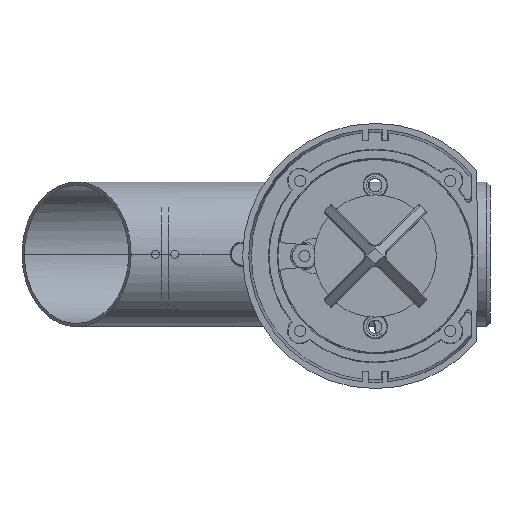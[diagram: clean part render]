
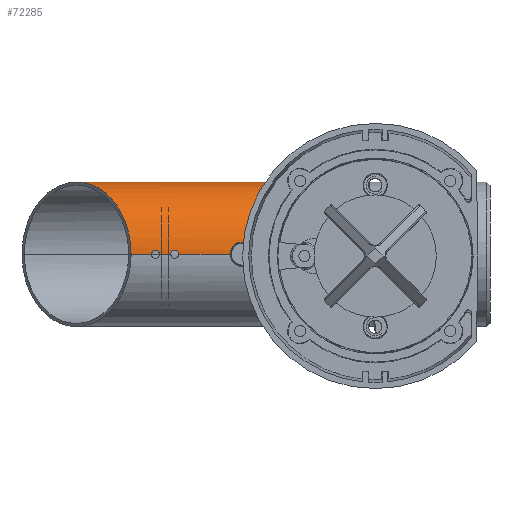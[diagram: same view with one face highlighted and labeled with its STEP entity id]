
A CAD part, front view. The second image highlights one B-rep face of the part: STEP entity #72285.
In plain terms, the highlighted cylindrical face has radius 22.5 mm (diameter 45 mm), a partial arc.
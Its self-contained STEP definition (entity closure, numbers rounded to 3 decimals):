
#71793=CARTESIAN_POINT('',(22.5,0.,67.25));
#71794=CARTESIAN_POINT('',(22.5,-0.129,67.25));
#71795=CARTESIAN_POINT('',(22.498,-0.388,
67.29));
#71796=CARTESIAN_POINT('',(22.488,-0.744,
67.47));
#71797=CARTESIAN_POINT('',(22.477,-1.028,
67.753));
#71798=CARTESIAN_POINT('',(22.468,-1.208,
68.106));
#71799=CARTESIAN_POINT('',(22.464,-1.271,
68.497));
#71800=CARTESIAN_POINT('',(22.468,-1.209,
68.891));
#71801=CARTESIAN_POINT('',(22.477,-1.028,
69.247));
#71802=CARTESIAN_POINT('',(22.488,-0.748,
69.528));
#71803=CARTESIAN_POINT('',(22.498,-0.386,
69.711));
#71804=CARTESIAN_POINT('',(22.5,-0.128,69.75));
#71805=CARTESIAN_POINT('',(22.5,0.,69.75));
#71811=CARTESIAN_POINT('',(22.5,0.,33.91));
#71812=CARTESIAN_POINT('',(22.5,-2.652,33.91));
#71813=CARTESIAN_POINT('',(21.772,-6.946,
33.361));
#71814=CARTESIAN_POINT('',(18.974,-12.386,
31.253));
#71815=CARTESIAN_POINT('',(16.025,-16.025,
29.031));
#71816=CARTESIAN_POINT('',(12.385,-18.975,
26.288));
#71817=CARTESIAN_POINT('',(8.307,-21.071,
23.215));
#71818=CARTESIAN_POINT('',(4.784,-22.065,
20.56));
#71819=CARTESIAN_POINT('',(2.01,-22.441,
18.47));
#71820=CARTESIAN_POINT('',(0.,-22.529,16.955));
#71821=CARTESIAN_POINT('',(-2.01,-22.441,
15.44));
#71822=CARTESIAN_POINT('',(-4.784,-22.065,
13.35));
#71823=CARTESIAN_POINT('',(-8.307,-21.071,
10.695));
#71824=CARTESIAN_POINT('',(-12.385,-18.975,
7.622));
#71825=CARTESIAN_POINT('',(-16.025,-16.025,
4.879));
#71826=CARTESIAN_POINT('',(-18.974,-12.386,
2.657));
#71827=CARTESIAN_POINT('',(-21.772,-6.946,
0.549));
#71828=CARTESIAN_POINT('',(-22.5,-2.652,0.));
#71829=CARTESIAN_POINT('',(-22.5,0.,0.));
#71831=DIRECTION('',(0.,0.,1.));
#71832=VECTOR('',#71831,108.);
#71833=CARTESIAN_POINT('',(-22.5,0.,0.));
#71834=LINE('',#71833,#71832);
#71855=DIRECTION('',(0.,0.,1.));
#71856=VECTOR('',#71855,6.34);
#71857=CARTESIAN_POINT('',(22.5,0.,33.91));
#71858=LINE('',#71857,#71856);
#71859=DIRECTION('',(0.,0.,1.));
#71860=VECTOR('',#71859,3.5);
#71861=CARTESIAN_POINT('',(22.5,0.,42.75));
#71862=LINE('',#71861,#71860);
#71863=DIRECTION('',(0.,0.,1.));
#71864=VECTOR('',#71863,18.5);
#71865=CARTESIAN_POINT('',(22.5,0.,48.75));
#71866=LINE('',#71865,#71864);
#71867=DIRECTION('',(0.,0.,1.));
#71868=VECTOR('',#71867,38.25);
#71869=CARTESIAN_POINT('',(22.5,0.,69.75));
#71870=LINE('',#71869,#71868);
#71890=CARTESIAN_POINT('',(0.,0.,108.));
#71891=DIRECTION('',(0.,0.,-1.));
#71892=DIRECTION('',(1.,0.,0.));
#71893=AXIS2_PLACEMENT_3D('',#71890,#71891,#71892);
#72007=CARTESIAN_POINT('',(22.5,0.,46.25));
#72008=CARTESIAN_POINT('',(22.5,-0.129,46.25));
#72009=CARTESIAN_POINT('',(22.498,-0.388,
46.29));
#72010=CARTESIAN_POINT('',(22.488,-0.744,
46.47));
#72011=CARTESIAN_POINT('',(22.477,-1.028,
46.753));
#72012=CARTESIAN_POINT('',(22.468,-1.208,
47.106));
#72013=CARTESIAN_POINT('',(22.464,-1.271,
47.497));
#72014=CARTESIAN_POINT('',(22.468,-1.209,
47.891));
#72015=CARTESIAN_POINT('',(22.477,-1.028,
48.247));
#72016=CARTESIAN_POINT('',(22.488,-0.748,
48.528));
#72017=CARTESIAN_POINT('',(22.498,-0.386,
48.711));
#72018=CARTESIAN_POINT('',(22.5,-0.128,48.75));
#72019=CARTESIAN_POINT('',(22.5,0.,48.75));
#72136=CARTESIAN_POINT('',(22.5,0.,40.25));
#72137=CARTESIAN_POINT('',(22.5,-0.129,40.25));
#72138=CARTESIAN_POINT('',(22.498,-0.388,
40.29));
#72139=CARTESIAN_POINT('',(22.488,-0.744,
40.47));
#72140=CARTESIAN_POINT('',(22.477,-1.028,
40.753));
#72141=CARTESIAN_POINT('',(22.468,-1.208,
41.106));
#72142=CARTESIAN_POINT('',(22.464,-1.271,
41.497));
#72143=CARTESIAN_POINT('',(22.468,-1.209,
41.891));
#72144=CARTESIAN_POINT('',(22.477,-1.028,
42.247));
#72145=CARTESIAN_POINT('',(22.488,-0.748,
42.528));
#72146=CARTESIAN_POINT('',(22.498,-0.386,
42.711));
#72147=CARTESIAN_POINT('',(22.5,-0.128,42.75));
#72148=CARTESIAN_POINT('',(22.5,0.,42.75));
#72194=VERTEX_POINT('',#71793);
#72195=VERTEX_POINT('',#71805);
#72199=CARTESIAN_POINT('',(22.5,0.,108.));
#72200=VERTEX_POINT('',#72199);
#72201=CARTESIAN_POINT('',(22.5,0.,48.75));
#72202=VERTEX_POINT('',#72201);
#72203=VERTEX_POINT('',#72007);
#72204=CARTESIAN_POINT('',(22.5,0.,42.75));
#72205=VERTEX_POINT('',#72204);
#72206=VERTEX_POINT('',#72136);
#72207=CARTESIAN_POINT('',(22.5,0.,33.91));
#72208=VERTEX_POINT('',#72207);
#72209=VERTEX_POINT('',#71829);
#72210=CARTESIAN_POINT('',(-22.5,0.,108.));
#72211=VERTEX_POINT('',#72210);
#72259=CARTESIAN_POINT('',(0.,0.,108.));
#72260=DIRECTION('',(0.,0.,-1.));
#72261=DIRECTION('',(-1.,0.,0.));
#72262=AXIS2_PLACEMENT_3D('',#72259,#72260,#72261);
#72263=CYLINDRICAL_SURFACE('',#72262,22.5);
#72265=ORIENTED_EDGE('',*,*,#72264,.F.);
#72266=ORIENTED_EDGE('',*,*,#72248,.F.);
#72268=ORIENTED_EDGE('',*,*,#72267,.F.);
#72270=ORIENTED_EDGE('',*,*,#72269,.F.);
#72272=ORIENTED_EDGE('',*,*,#72271,.F.);
#72274=ORIENTED_EDGE('',*,*,#72273,.F.);
#72276=ORIENTED_EDGE('',*,*,#72275,.F.);
#72278=ORIENTED_EDGE('',*,*,#72277,.T.);
#72280=ORIENTED_EDGE('',*,*,#72279,.T.);
#72282=ORIENTED_EDGE('',*,*,#72281,.F.);
#72283=EDGE_LOOP('',(#72265,#72266,#72268,#72270,#72272,#72274,#72276,#72278,
#72280,#72282));
#72284=FACE_OUTER_BOUND('',#72283,.F.);
#72285=ADVANCED_FACE('',(#72284),#72263,.T.);
#71806=B_SPLINE_CURVE_WITH_KNOTS('',3,(#71793,#71794,#71795,#71796,#71797,
#71798,#71799,#71800,#71801,#71802,#71803,#71804,#71805),.UNSPECIFIED.,.F.,.F.,(
4,1,1,1,1,1,1,1,1,1,4),(0.,0.1,0.2,0.3,0.4,0.5,0.6,0.7,0.8,
0.9,1.),.UNSPECIFIED.);
#71830=B_SPLINE_CURVE_WITH_KNOTS('',3,(#71811,#71812,#71813,#71814,#71815,
#71816,#71817,#71818,#71819,#71820,#71821,#71822,#71823,#71824,#71825,#71826,
#71827,#71828,#71829),.UNSPECIFIED.,.F.,.F.,(4,1,1,1,1,1,1,1,1,1,1,1,1,1,1,1,4),
(0.,0.125,0.188,0.25,0.313,0.375,0.438,0.469,0.5,
0.531,0.563,0.625,0.688,0.75,0.813,0.875,1.),
.UNSPECIFIED.);
#71894=CIRCLE('',#71893,22.5);
#72020=B_SPLINE_CURVE_WITH_KNOTS('',3,(#72007,#72008,#72009,#72010,#72011,
#72012,#72013,#72014,#72015,#72016,#72017,#72018,#72019),.UNSPECIFIED.,.F.,.F.,(
4,1,1,1,1,1,1,1,1,1,4),(0.,0.1,0.2,0.3,0.4,0.5,0.6,0.7,0.8,
0.9,1.),.UNSPECIFIED.);
#72149=B_SPLINE_CURVE_WITH_KNOTS('',3,(#72136,#72137,#72138,#72139,#72140,
#72141,#72142,#72143,#72144,#72145,#72146,#72147,#72148),.UNSPECIFIED.,.F.,.F.,(
4,1,1,1,1,1,1,1,1,1,4),(0.,0.1,0.2,0.3,0.4,0.5,0.6,0.7,0.8,
0.9,1.),.UNSPECIFIED.);
#72248=EDGE_CURVE('',#72194,#72195,#71806,.T.);
#72264=EDGE_CURVE('',#72195,#72200,#71870,.T.);
#72267=EDGE_CURVE('',#72202,#72194,#71866,.T.);
#72269=EDGE_CURVE('',#72203,#72202,#72020,.T.);
#72271=EDGE_CURVE('',#72205,#72203,#71862,.T.);
#72273=EDGE_CURVE('',#72206,#72205,#72149,.T.);
#72275=EDGE_CURVE('',#72208,#72206,#71858,.T.);
#72277=EDGE_CURVE('',#72208,#72209,#71830,.T.);
#72279=EDGE_CURVE('',#72209,#72211,#71834,.T.);
#72281=EDGE_CURVE('',#72200,#72211,#71894,.T.);
